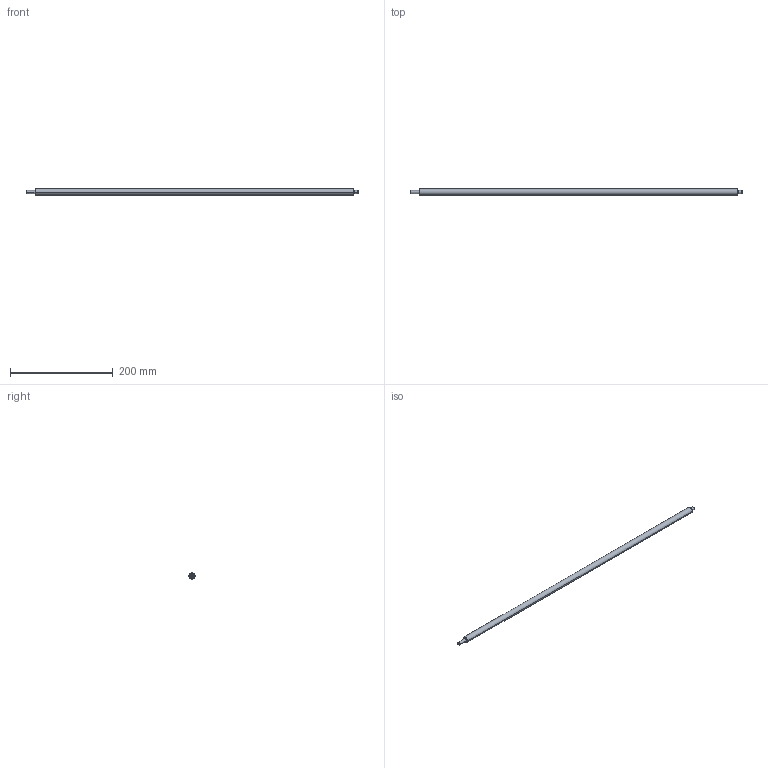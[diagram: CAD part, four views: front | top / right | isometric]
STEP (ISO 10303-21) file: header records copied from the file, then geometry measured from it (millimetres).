
FILE_DESCRIPTION(/* description */ (''),/* implementation_level */ '2;1');
FILE_NAME(/* name */ '6.y-drive#6.10#SFAJ12-620-F18-P6-T8',/* time_stamp */ '2014-12-01T20:16:19+01:00',/* author */ (''),/* organization */ (''),/* preprocessor_version */ 'ST-DEVELOPER v14',/* originating_system */ '',/* authorisation */ '');
FILE_SCHEMA (('AUTOMOTIVE_DESIGN'));
Length unit declared in the file: millimetre
Products named in the file (1): Document
Bounding box: 646 x 12 x 11.98 mm (x, y, z)
Volume: 70933.3 mm3; surface area: 24059.8 mm2
Topology: 1 solids, 1 shells, 22 faces, 46 edges, 28 vertices
Faces by surface type: bspline 18, plane 4
Entity records: 1600 total; most frequent: CARTESIAN_POINT 994, B_SPLINE_CURVE_WITH_KNOTS 94, ORIENTED_EDGE 92, PCURVE 92, DEFINITIONAL_REPRESENTATION 92, SURFACE_CURVE 46, EDGE_CURVE 46, VERTEX_POINT 28
